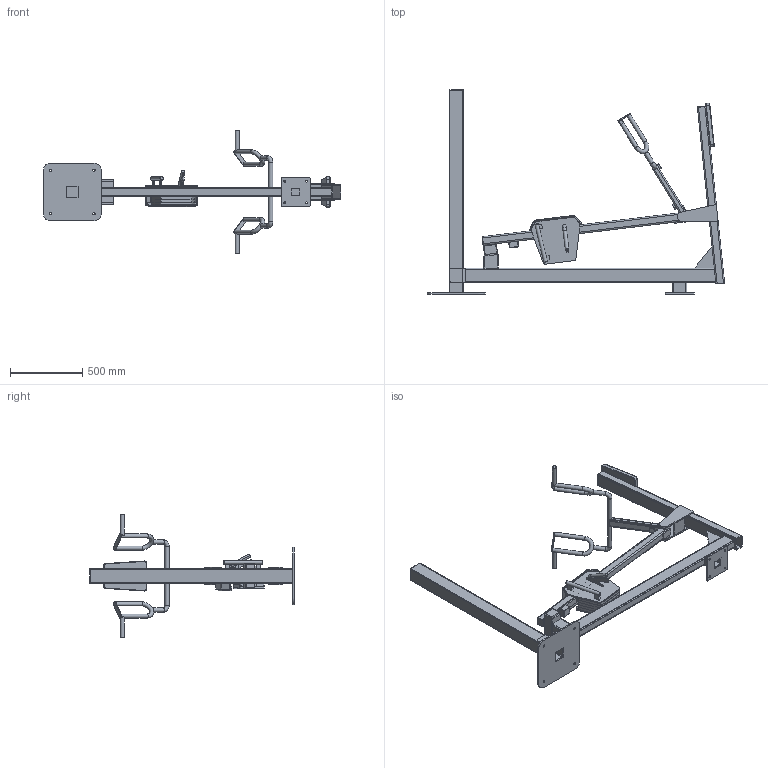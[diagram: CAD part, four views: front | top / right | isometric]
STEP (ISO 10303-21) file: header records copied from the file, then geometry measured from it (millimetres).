
FILE_DESCRIPTION(/* description */ (''),/* implementation_level */ '2;1');
FILE_NAME(/* name */ 'OG23_3D_Low.step',/* time_stamp */ '2025-11-11T15:59:41+02:00',/* author */ (''),/* organization */ (''),/* preprocessor_version */ 'ST-DEVELOPER v20.1',/* originating_system */ 'Autodesk Translation Framework v14.21.0.0',/* authorisation */ '');
FILE_SCHEMA (('AUTOMOTIVE_DESIGN { 1 0 10303 214 3 1 1 }'));
Length unit declared in the file: millimetre
Products named in the file (1): OG23_3D_Low
Bounding box: 2057.38 x 1413 x 854.27 mm (x, y, z)
Volume: 20798888.7 mm3; surface area: 5926263.3 mm2
Topology: 51 solids, 51 shells, 817 faces, 1976 edges, 1267 vertices
Faces by surface type: plane 426, cylinder 323, torus 33, bspline 23, sphere 8, cone 4
Full cylindrical faces by diameter (mm): 6.5 x2, 8 x2, 8.5 x1, 9 x2, 10 x1, 11.8 x1, 13 x17, 14 x4, 16 x4, 25 x1, 28 x6, 30 x3, 31 x2, 34.8 x2, 35 x2, 39 x2, 60 x1
Entity records: 25088 total; most frequent: CARTESIAN_POINT 5252, DIRECTION 4182, ORIENTED_EDGE 3952, EDGE_CURVE 1976, AXIS2_PLACEMENT_3D 1477, VERTEX_POINT 1267, LINE 1228, VECTOR 1228
